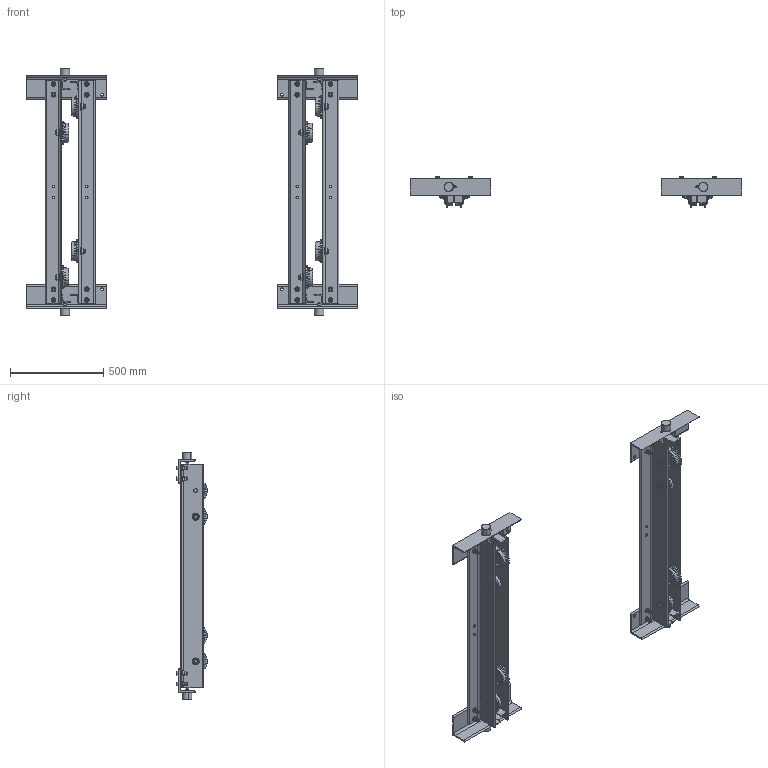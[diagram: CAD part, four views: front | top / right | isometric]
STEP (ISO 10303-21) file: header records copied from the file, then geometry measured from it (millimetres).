
FILE_DESCRIPTION (( 'STEP AP214' ), '1' );
FILE_NAME ('HPC510 Top.STEP', '2026-08-11T20:24:24', ( '' ), ( '' ), 'SwSTEP 2.0', 'SolidWorks 2026', '' );
FILE_SCHEMA (( 'AUTOMOTIVE_DESIGN' ));
Length unit declared in the file: millimetre
Products named in the file (20): 9003908_94846A537; A500-308-005_17.000 INCH; 52390; 9093374_9093374; 9012515_9012515; HPC510 Top HALF ASM_2 Inch Square Bar Runway; A112-112-004_3.5; 52390-02; 9093433_9093433; 9004603; 62676_2" Sq. Bar; 9200012; 9005212_9005212; A500-308-005_47; 9005317_9005317; 62675_2" Sq. Bar; 52390-01; HPC510 Top; 9003903_9003903
Assembly tree (75 placements, depth 5):
  HPC510 Top
    HPC510 Top HALF ASM_2 Inch Square Bar Runway  x2
      52390
        52390-01
          A500-308-005_47
        52390-02  x2
          A112-112-004_3.5
      62675_2" Sq. Bar
        A500-308-005_17.000 INCH
      62676_2" Sq. Bar
        A500-308-005_17.000 INCH
      9003903_9003903
      9005212_9005212
      9005317_9005317
      9003908_94846A537
      9004603
      9012515_9012515
      9093433_9093433
      9093374_9093374
      9200012
Bounding box: 1774.67 x 162.96 x 1327.16 mm (x, y, z)
Volume: 13153525.2 mm3; surface area: 3466963.4 mm2
Topology: 140 solids, 140 shells, 3292 faces, 7120 edges, 4192 vertices
Faces by surface type: cone 1216, plane 1004, cylinder 864, torus 208
Entity records: 12032 total; most frequent: CARTESIAN_POINT 3097, DIRECTION 1846, ORIENTED_EDGE 1544, AXIS2_PLACEMENT_3D 778, EDGE_CURVE 772, VERTEX_POINT 468, EDGE_LOOP 406, CIRCLE 354
